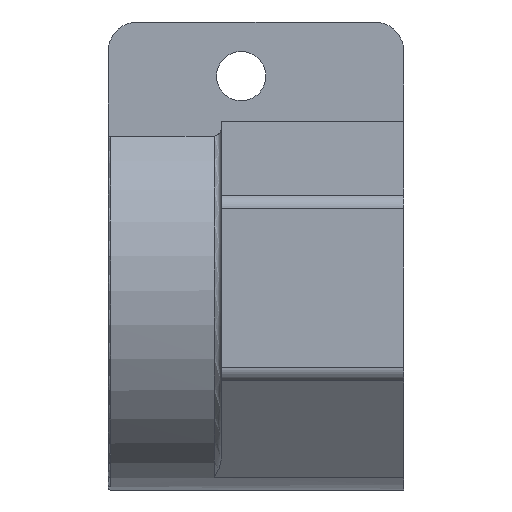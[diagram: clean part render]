
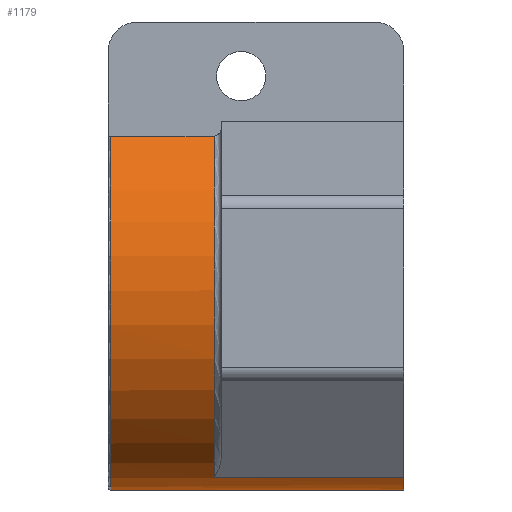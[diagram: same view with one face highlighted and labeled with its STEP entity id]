
A CAD part, left-side view. The second image highlights one B-rep face of the part: STEP entity #1179.
In plain terms, the highlighted cylindrical face has radius 41 mm (diameter 82 mm), a partial arc.
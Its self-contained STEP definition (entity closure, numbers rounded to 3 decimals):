
#16 = EDGE_CURVE ( 'NONE', #1215, #1170, #731, .T. ) ;
#22 = CARTESIAN_POINT ( 'NONE',  ( 0., 60., -41. ) ) ;
#31 = EDGE_CURVE ( 'NONE', #1170, #742, #1183, .T. ) ;
#45 = CARTESIAN_POINT ( 'NONE',  ( 0., 0., -41. ) ) ;
#71 = LINE ( 'NONE', #79, #997 ) ;
#74 = CIRCLE ( 'NONE', #834, 41. ) ;
#79 = CARTESIAN_POINT ( 'NONE',  ( -14.023, 60., -38.527 ) ) ;
#103 = DIRECTION ( 'NONE',  ( 0., -1., 0. ) ) ;
#104 = LINE ( 'NONE', #1181, #1267 ) ;
#107 = ORIENTED_EDGE ( 'NONE', *, *, #16, .T. ) ;
#180 = CARTESIAN_POINT ( 'NONE',  ( 0., 59.5, 0. ) ) ;
#243 = VECTOR ( 'NONE', #1442, 1000. ) ;
#305 = DIRECTION ( 'NONE',  ( 0., -1., 0. ) ) ;
#339 = CARTESIAN_POINT ( 'NONE',  ( 0., 38.5, 0. ) ) ;
#340 = DIRECTION ( 'NONE',  ( 0., -1., 0. ) ) ;
#372 = ORIENTED_EDGE ( 'NONE', *, *, #580, .T. ) ;
#380 = EDGE_LOOP ( 'NONE', ( #934, #107, #787, #372, #597, #413 ) ) ;
#383 = CARTESIAN_POINT ( 'NONE',  ( -14.023, 38.5, -38.527 ) ) ;
#404 = AXIS2_PLACEMENT_3D ( 'NONE', #180, #305, #692 ) ;
#413 = ORIENTED_EDGE ( 'NONE', *, *, #905, .T. ) ;
#444 = VERTEX_POINT ( 'NONE', #630 ) ;
#452 = AXIS2_PLACEMENT_3D ( 'NONE', #339, #860, #601 ) ;
#475 = DIRECTION ( 'NONE',  ( 0., 0., -1. ) ) ;
#493 = FACE_OUTER_BOUND ( 'NONE', #380, .T. ) ;
#580 = EDGE_CURVE ( 'NONE', #742, #1300, #74, .T. ) ;
#597 = ORIENTED_EDGE ( 'NONE', *, *, #1055, .F. ) ;
#601 = DIRECTION ( 'NONE',  ( 0., 0., 1. ) ) ;
#618 = EDGE_CURVE ( 'NONE', #444, #1215, #104, .T. ) ;
#630 = CARTESIAN_POINT ( 'NONE',  ( -27., 38.5, 30.854 ) ) ;
#692 = DIRECTION ( 'NONE',  ( 0., 0., -1. ) ) ;
#719 = CARTESIAN_POINT ( 'NONE',  ( 0., 59.5, -41. ) ) ;
#731 = CIRCLE ( 'NONE', #404, 41. ) ;
#742 = VERTEX_POINT ( 'NONE', #45 ) ;
#753 = CIRCLE ( 'NONE', #452, 41. ) ;
#787 = ORIENTED_EDGE ( 'NONE', *, *, #31, .T. ) ;
#834 = AXIS2_PLACEMENT_3D ( 'NONE', #1639, #1269, #475 ) ;
#860 = DIRECTION ( 'NONE',  ( 0., 1., 0. ) ) ;
#862 = DIRECTION ( 'NONE',  ( 0., 0., -1. ) ) ;
#905 = EDGE_CURVE ( 'NONE', #1264, #444, #753, .T. ) ;
#934 = ORIENTED_EDGE ( 'NONE', *, *, #618, .T. ) ;
#997 = VECTOR ( 'NONE', #103, 1000. ) ;
#1055 = EDGE_CURVE ( 'NONE', #1264, #1300, #71, .T. ) ;
#1170 = VERTEX_POINT ( 'NONE', #719 ) ;
#1172 = CARTESIAN_POINT ( 'NONE',  ( -14.023, 0., -38.527 ) ) ;
#1179 = ADVANCED_FACE ( 'NONE', ( #493 ), #1501, .T. ) ;
#1181 = CARTESIAN_POINT ( 'NONE',  ( -27., 37., 30.854 ) ) ;
#1183 = LINE ( 'NONE', #22, #243 ) ;
#1215 = VERTEX_POINT ( 'NONE', #1672 ) ;
#1264 = VERTEX_POINT ( 'NONE', #383 ) ;
#1267 = VECTOR ( 'NONE', #1307, 1000. ) ;
#1269 = DIRECTION ( 'NONE',  ( 0., 1., 0. ) ) ;
#1300 = VERTEX_POINT ( 'NONE', #1172 ) ;
#1307 = DIRECTION ( 'NONE',  ( 0., 1., 0. ) ) ;
#1425 = AXIS2_PLACEMENT_3D ( 'NONE', #1529, #340, #862 ) ;
#1442 = DIRECTION ( 'NONE',  ( 0., -1., 0. ) ) ;
#1501 = CYLINDRICAL_SURFACE ( 'NONE', #1425, 41. ) ;
#1529 = CARTESIAN_POINT ( 'NONE',  ( 0., 60., 0. ) ) ;
#1639 = CARTESIAN_POINT ( 'NONE',  ( 0., 0., 0. ) ) ;
#1672 = CARTESIAN_POINT ( 'NONE',  ( -27., 59.5, 30.854 ) ) ;
